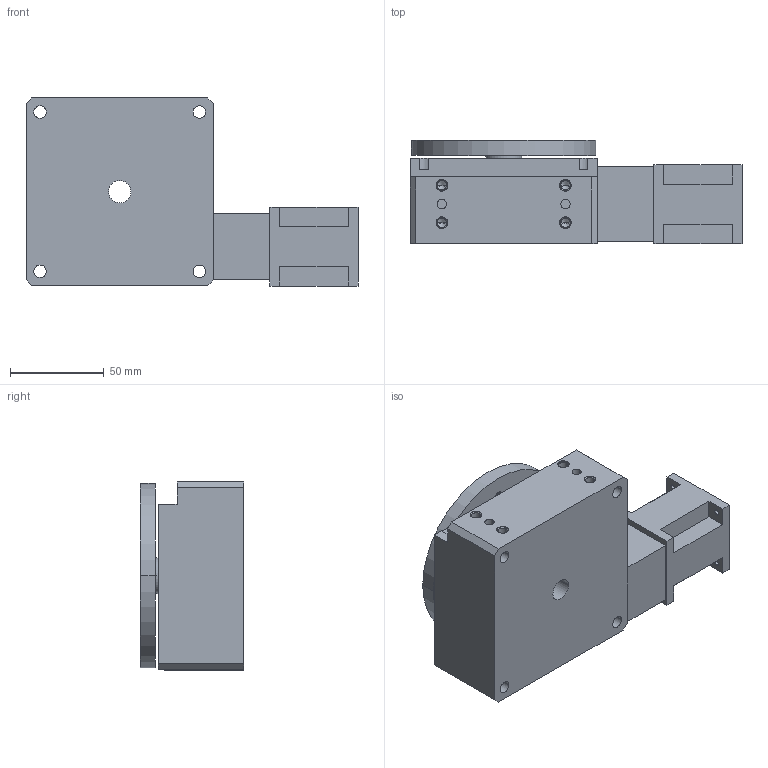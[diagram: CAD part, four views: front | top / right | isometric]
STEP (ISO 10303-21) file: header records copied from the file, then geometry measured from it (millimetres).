
FILE_DESCRIPTION((''),'2;1');
FILE_NAME('R100M6M16E0_ASM','2009-07-02T',('FK20128'),(''),'PRO/ENGINEER BY PARAMETRIC TECHNOLOGY CORPORATION, 2006200','PRO/ENGINEER BY PARAMETRIC TECHNOLOGY CORPORATION, 2006200','');
FILE_SCHEMA(('CONFIG_CONTROL_DESIGN'));
Length unit declared in the file: millimetre
Products named in the file (3): R100M; R100M-M16; R100M6M16E0_ASM
Assembly tree (2 placements, depth 2):
  R100M6M16E0_ASM
    R100M
    R100M-M16
Bounding box: 177.15 x 55.01 x 100.34 mm (x, y, z)
Volume: 585653.9 mm3; surface area: 84378.3 mm2
Topology: 2 solids, 20 shells, 225 faces, 564 edges, 374 vertices
Faces by surface type: cylinder 124, plane 79, cone 22
Entity records: 6936 total; most frequent: DIRECTION 1314, CARTESIAN_POINT 1160, ORIENTED_EDGE 1032, EDGE_CURVE 552, AXIS2_PLACEMENT_3D 528, VERTEX_POINT 374, EDGE_LOOP 304, CIRCLE 294
